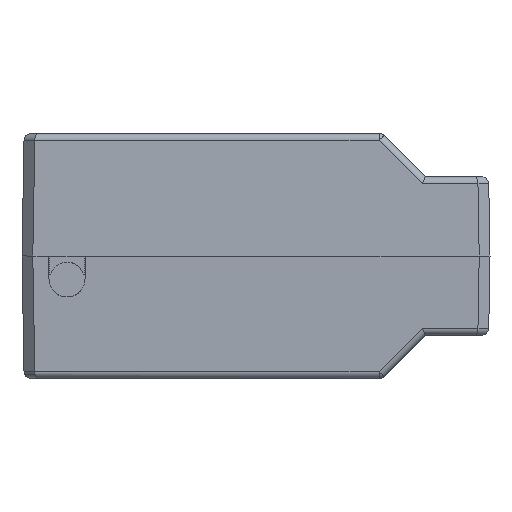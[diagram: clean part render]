
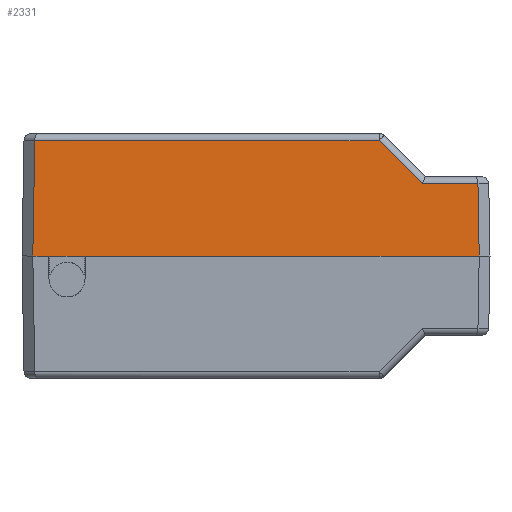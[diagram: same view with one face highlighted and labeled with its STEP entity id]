
A CAD part, left-side view. The second image highlights one B-rep face of the part: STEP entity #2331.
In plain terms, the highlighted planar face has unit normal (-1, 0, 0.018).
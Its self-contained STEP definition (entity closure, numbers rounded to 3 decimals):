
#932 = EDGE_CURVE ( 'NONE', #22203, #13246, #18615, .T. ) ;
#1439 = DIRECTION ( 'NONE',  ( -1., 0., 0.017 ) ) ;
#1513 = FACE_OUTER_BOUND ( 'NONE', #17640, .T. ) ;
#2331 = ADVANCED_FACE ( 'NONE', ( #1513 ), #28847, .T. ) ;
#2377 = CARTESIAN_POINT ( 'NONE',  ( -22.495, -0.302, 0.302 ) ) ;
#2507 = CARTESIAN_POINT ( 'NONE',  ( -22.325, 1.675, 10.017 ) ) ;
#2617 = VECTOR ( 'NONE', #4882, 1000. ) ;
#3045 = ORIENTED_EDGE ( 'NONE', *, *, #31907, .T. ) ;
#3143 = CARTESIAN_POINT ( 'NONE',  ( -22.5, 0., 0. ) ) ;
#3807 = VECTOR ( 'NONE', #27824, 1000. ) ;
#4407 = DIRECTION ( 'NONE',  ( 0.017, 0.017, 1. ) ) ;
#4495 = ORIENTED_EDGE ( 'NONE', *, *, #16602, .T. ) ;
#4575 = CARTESIAN_POINT ( 'NONE',  ( -22.5, 61.306, 0. ) ) ;
#4882 = DIRECTION ( 'NONE',  ( 0., 1., 0. ) ) ;
#5406 = CARTESIAN_POINT ( 'NONE',  ( -22.22, 15.414, 16.017 ) ) ;
#6270 = DIRECTION ( 'NONE',  ( 0.012, 0.707, 0.707 ) ) ;
#8251 = VECTOR ( 'NONE', #34319, 1000. ) ;
#9267 = LINE ( 'NONE', #16034, #19625 ) ;
#9334 = CARTESIAN_POINT ( 'NONE',  ( -22.5, 56.194, 0. ) ) ;
#11457 = EDGE_CURVE ( 'NONE', #13246, #26788, #24569, .T. ) ;
#11539 = VERTEX_POINT ( 'NONE', #24985 ) ;
#12673 = VECTOR ( 'NONE', #6270, 1000. ) ;
#12858 = ORIENTED_EDGE ( 'NONE', *, *, #43705, .T. ) ;
#13246 = VERTEX_POINT ( 'NONE', #4575 ) ;
#14496 = LINE ( 'NONE', #34076, #44416 ) ;
#14744 = LINE ( 'NONE', #31651, #45855 ) ;
#14780 = DIRECTION ( 'NONE',  ( 0., 1., 0. ) ) ;
#16034 = CARTESIAN_POINT ( 'NONE',  ( -22.5, 0., 0. ) ) ;
#16079 = EDGE_CURVE ( 'NONE', #11539, #46186, #14744, .T. ) ;
#16602 = EDGE_CURVE ( 'NONE', #26354, #29538, #44026, .T. ) ;
#16707 = CARTESIAN_POINT ( 'NONE',  ( -22.325, 9.414, 10.017 ) ) ;
#17640 = EDGE_LOOP ( 'NONE', ( #37762, #12858, #20720, #26737, #30962, #21973, #30619, #4495, #3045, #35152 ) ) ;
#18515 = DIRECTION ( 'NONE',  ( -0.017, 0.017, -1. ) ) ;
#18615 = LINE ( 'NONE', #43200, #8251 ) ;
#19625 = VECTOR ( 'NONE', #19982, 1000. ) ;
#19982 = DIRECTION ( 'NONE',  ( 0., 1., 0. ) ) ;
#20287 = LINE ( 'NONE', #3143, #50106 ) ;
#20682 = CARTESIAN_POINT ( 'NONE',  ( -22.5, 63.5, 0. ) ) ;
#20720 = ORIENTED_EDGE ( 'NONE', *, *, #41857, .F. ) ;
#21973 = ORIENTED_EDGE ( 'NONE', *, *, #35172, .T. ) ;
#22203 = VERTEX_POINT ( 'NONE', #33314 ) ;
#24293 = CARTESIAN_POINT ( 'NONE',  ( -22.5, 0., 0. ) ) ;
#24569 = LINE ( 'NONE', #24293, #2617 ) ;
#24765 = DIRECTION ( 'NONE',  ( 0.017, 0., 1. ) ) ;
#24985 = CARTESIAN_POINT ( 'NONE',  ( -22.5, 1.5, 0. ) ) ;
#26354 = VERTEX_POINT ( 'NONE', #5406 ) ;
#26446 = VERTEX_POINT ( 'NONE', #29267 ) ;
#26737 = ORIENTED_EDGE ( 'NONE', *, *, #41016, .F. ) ;
#26788 = VERTEX_POINT ( 'NONE', #20682 ) ;
#27824 = DIRECTION ( 'NONE',  ( 0., 1., 0. ) ) ;
#28725 = VECTOR ( 'NONE', #37657, 1000. ) ;
#28847 = PLANE ( 'NONE',  #32217 ) ;
#29267 = CARTESIAN_POINT ( 'NONE',  ( -22.5, 56.375, 0. ) ) ;
#29538 = VERTEX_POINT ( 'NONE', #47184 ) ;
#29928 = LINE ( 'NONE', #49388, #28725 ) ;
#30112 = CARTESIAN_POINT ( 'NONE',  ( -22.481, 63.48, 1.108 ) ) ;
#30619 = ORIENTED_EDGE ( 'NONE', *, *, #45795, .T. ) ;
#30962 = ORIENTED_EDGE ( 'NONE', *, *, #16079, .T. ) ;
#31258 = DIRECTION ( 'NONE',  ( 0., 1., 0. ) ) ;
#31651 = CARTESIAN_POINT ( 'NONE',  ( -22.5, 1.5, -0.026 ) ) ;
#31907 = EDGE_CURVE ( 'NONE', #29538, #26788, #45236, .T. ) ;
#32217 = AXIS2_PLACEMENT_3D ( 'NONE', #32576, #1439, #24765 ) ;
#32541 = VERTEX_POINT ( 'NONE', #9334 ) ;
#32576 = CARTESIAN_POINT ( 'NONE',  ( -22.5, 0., 0. ) ) ;
#33314 = CARTESIAN_POINT ( 'NONE',  ( -22.5, 61.125, 0. ) ) ;
#34076 = CARTESIAN_POINT ( 'NONE',  ( -22.325, 0., 10.017 ) ) ;
#34319 = DIRECTION ( 'NONE',  ( 0., 1., 0. ) ) ;
#34857 = VECTOR ( 'NONE', #18515, 1000. ) ;
#35152 = ORIENTED_EDGE ( 'NONE', *, *, #11457, .F. ) ;
#35172 = EDGE_CURVE ( 'NONE', #46186, #38276, #14496, .T. ) ;
#35870 = LINE ( 'NONE', #2377, #12673 ) ;
#37657 = DIRECTION ( 'NONE',  ( 0., -1., 0. ) ) ;
#37762 = ORIENTED_EDGE ( 'NONE', *, *, #932, .F. ) ;
#38276 = VERTEX_POINT ( 'NONE', #16707 ) ;
#41016 = EDGE_CURVE ( 'NONE', #11539, #32541, #9267, .T. ) ;
#41857 = EDGE_CURVE ( 'NONE', #32541, #26446, #20287, .T. ) ;
#43200 = CARTESIAN_POINT ( 'NONE',  ( -22.5, 0., 0. ) ) ;
#43705 = EDGE_CURVE ( 'NONE', #22203, #26446, #29928, .T. ) ;
#44026 = LINE ( 'NONE', #47223, #3807 ) ;
#44416 = VECTOR ( 'NONE', #14780, 1000. ) ;
#45236 = LINE ( 'NONE', #30112, #34857 ) ;
#45795 = EDGE_CURVE ( 'NONE', #38276, #26354, #35870, .T. ) ;
#45855 = VECTOR ( 'NONE', #4407, 1000. ) ;
#46186 = VERTEX_POINT ( 'NONE', #2507 ) ;
#47184 = CARTESIAN_POINT ( 'NONE',  ( -22.22, 63.22, 16.017 ) ) ;
#47223 = CARTESIAN_POINT ( 'NONE',  ( -22.22, 0., 16.017 ) ) ;
#49388 = CARTESIAN_POINT ( 'NONE',  ( -22.5, 0., 0. ) ) ;
#50106 = VECTOR ( 'NONE', #31258, 1000. ) ;
